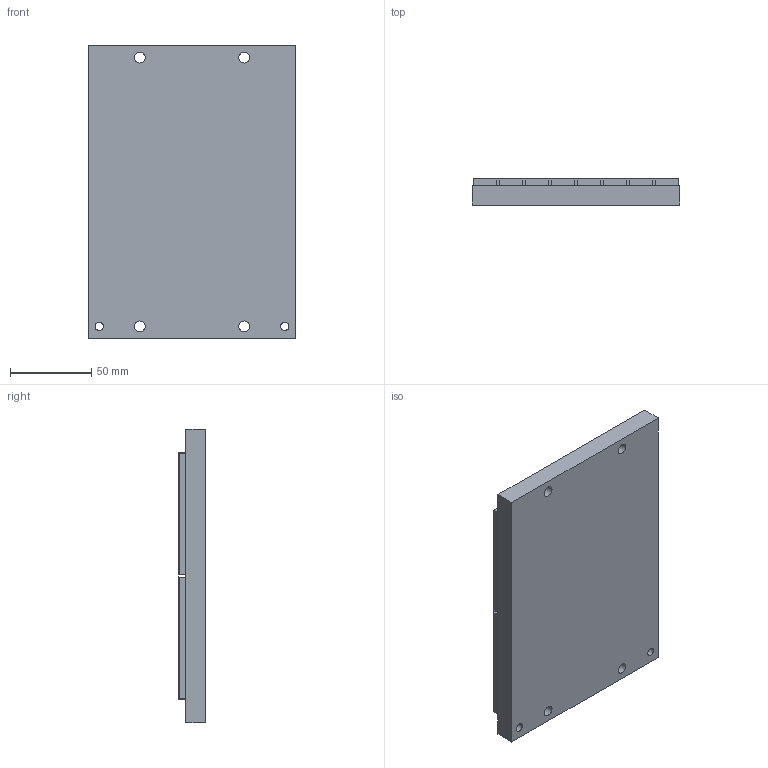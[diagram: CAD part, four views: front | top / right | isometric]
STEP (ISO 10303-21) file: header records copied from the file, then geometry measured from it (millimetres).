
FILE_DESCRIPTION((''),'2;1');
FILE_NAME('MC150-0128-WC','2007-01-14T',('saurabh.singhal'),(''),'PRO/ENGINEER BY PARAMETRIC TECHNOLOGY CORPORATION, 2005450','PRO/ENGINEER BY PARAMETRIC TECHNOLOGY CORPORATION, 2005450','');
FILE_SCHEMA(('CONFIG_CONTROL_DESIGN'));
Length unit declared in the file: millimetre
Products named in the file (1): MC150-0128-WC
Bounding box: 127.3 x 16.4 x 180 mm (x, y, z)
Volume: 343778.1 mm3; surface area: 106515.6 mm2
Topology: 1 solids, 1 shells, 118 faces, 288 edges, 192 vertices
Faces by surface type: plane 98, cylinder 20
Entity records: 3498 total; most frequent: CARTESIAN_POINT 598, ORIENTED_EDGE 576, DIRECTION 564, EDGE_CURVE 288, VECTOR 248, LINE 248, VERTEX_POINT 192, AXIS2_PLACEMENT_3D 158
